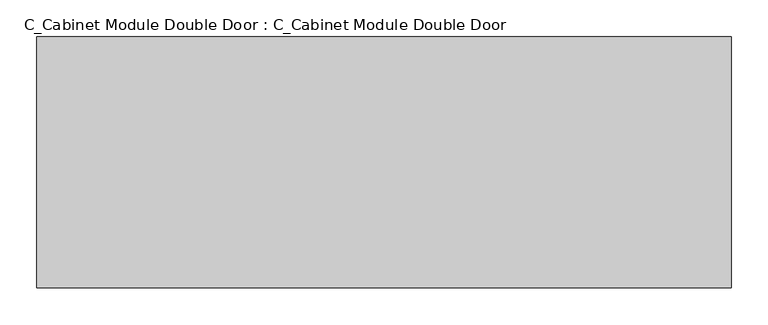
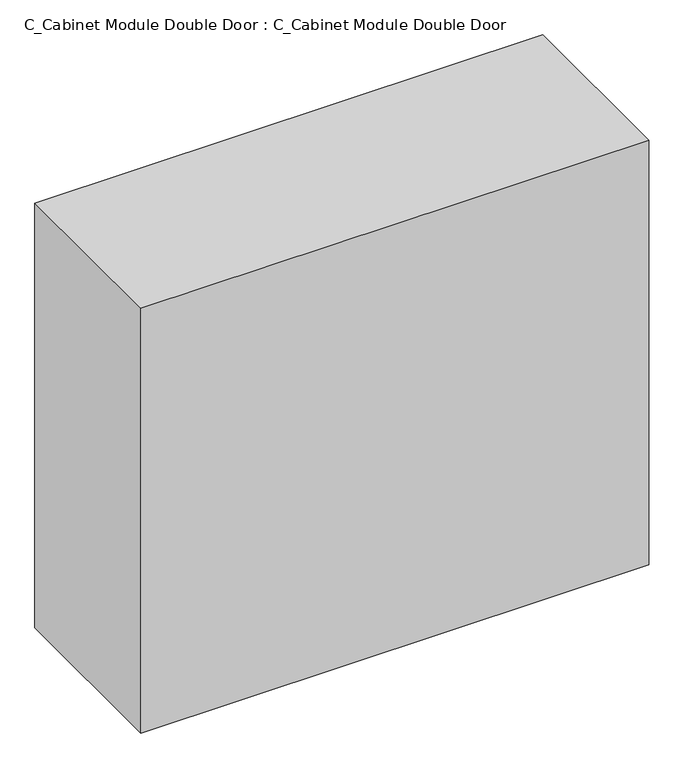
"""IFC4 building model written with IfcOpenShell, lengths in millimetres: furniture geometry, C_Cabinet Module Double Door : C_Cabinet Module Double Door."""

from ifc_helpers import new_model, si_unit, origin, origin_with_axes, place, context, project, spatial, polyline, outline, extrude, source, transform, mapped, element, save


def c_cabinet_module_double_door_c_cabinet_module_double_door_cadfa840(model_context):
    return source(origin(), model_context, "Body", "SweptSolid", [
        extrude(outline(polyline([(473.86875, 0.0), (-473.86875, 0.0), (-473.86875, 342.9), (473.86875, 342.9), (473.86875, 0.0)])), origin_with_axes(), (0.0, 0.0, 1.0), 838.2),
    ])


if __name__ == "__main__":
    model = new_model("IFC4")
    model_context = context("Model", 3, world=origin())
    ifc_project = project(units=[si_unit("LENGTHUNIT", "METRE", prefix="MILLI")], contexts=[model_context])
    site = spatial("IfcSite", under=ifc_project)
    building = spatial("IfcBuilding", under=site)
    placement = place(None, origin())
    c_cabinet_module_double_door_c_cabinet_module_double_door_shape = c_cabinet_module_double_door_c_cabinet_module_double_door_cadfa840(model_context)
    element("IfcFurniture", 1, ObjectType="C_Cabinet Module Double Door : C_Cabinet Module Double Door", at=placement, inside=building, context=model_context, shape_type="MappedRepresentation", body=[
        mapped(c_cabinet_module_double_door_c_cabinet_module_double_door_shape, transform((0.0, 0.0, 0.0), x_axis=(1.0, 0.0, 0.0), y_axis=(0.0, 1.0, 0.0), z_axis=(0.0, 0.0, 1.0))),
    ])
    save(model, "model.ifc")
